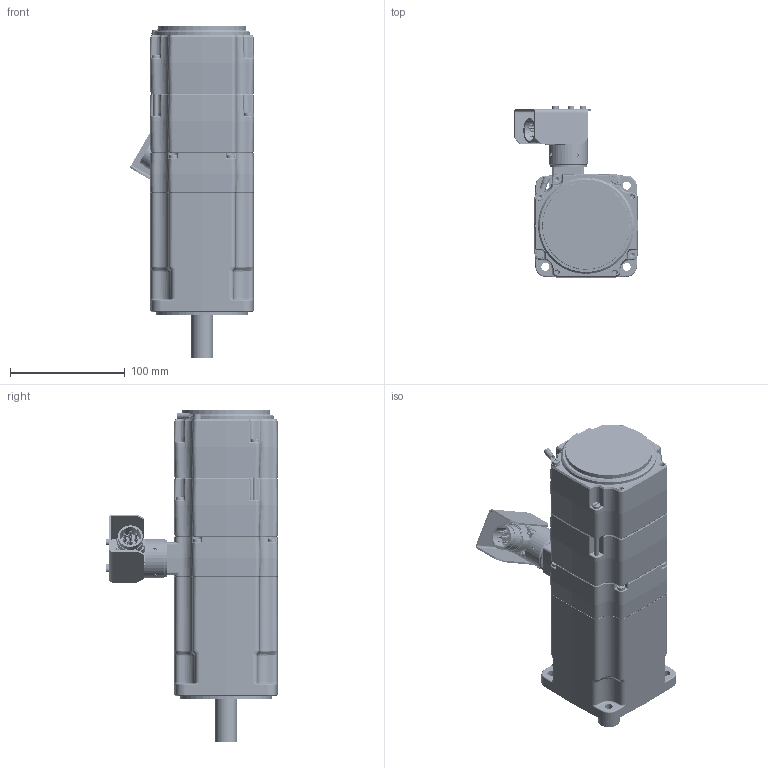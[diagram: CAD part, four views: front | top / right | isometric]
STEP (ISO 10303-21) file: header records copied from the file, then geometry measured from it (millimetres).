
FILE_DESCRIPTION((''),'2;1');
FILE_NAME('EY420EYR7310_ASM','2017-09-29T',('pf73167'),(''),'PRO/ENGINEER BY PARAMETRIC TECHNOLOGY CORPORATION, 2009400','PRO/ENGINEER BY PARAMETRIC TECHNOLOGY CORPORATION, 2009400','');
FILE_SCHEMA(('CONFIG_CONTROL_DESIGN'));
Length unit declared in the file: millimetre
Products named in the file (50): 344176P0027; 5116P1308; 1613P0123; 344174P0003; 344171P0001; 344212P0002; 344171P0001_ASM; 220087P0012; 344175R0003_ASM; 5116P1315; 1711P0005; 1645P0017; 344170P0001; 344225R2000; 344561P0001; 344570P0002_ENROULE; 344228R2000_ASM; 344172P0009; 344173R2008_ASM; 5340P0069; 5320P0033; 1143P0415; 1821P0015; 1613P0043; 1613P0044; 1317P0303; 283154_05_P1BF102_AF0; 283154_05_P1F501_AF0; 283154P0037_ASM; 1150P0305; 344180P0001; 344180P0019; 1120P0086; 1642P0104; 6620P0012; 1143P0408; 345359P0002; 5340P0124; 5340P0125; 1150P0204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
Assembly tree (111 placements, depth 4):
  EY420EYR7310_ASM
    344176P0027
    5116P1308
    1613P0123
    344175R0003_ASM
      344174P0003
      344171P0001_ASM
        344171P0001
        344212P0002  x2
      220087P0012  x20
    5116P1315
    1711P0005
    1645P0017  x2
    344173R2008_ASM
      344228R2000_ASM
        344170P0001
        344225R2000  x6
        344561P0001  x2
        344570P0002_ENROULE  x2
      344172P0009
    5340P0069  x3
    5320P0033
    1143P0415  x6
    1821P0015  x2
    1613P0043  x4
    1613P0044  x2
    1317P0303
    283154P0037_ASM
      283154_05_P1BF102_AF0
      283154_05_P1F501_AF0
    1150P0305  x4
    344180P0001
    344180P0019
    1120P0086  x2
    1642P0104
    6620P0012
    1143P0408
    345359R1010_ASM
      345359P0002
      5340P0124
      5340P0125
      1150P0204  x8
      345359P0001
      1170P0042  x4
      220132P1010_ASM
        220132P1010_0001
        220132P1010_0002
        220132P0111  x4
        220132P0120  x3
      345359P0003
      1150P0305  x3
Bounding box: 108.48 x 150.2 x 288.9 mm (x, y, z)
Volume: 1141400.6 mm3; surface area: 484135.1 mm2
Topology: 108 solids, 127 shells, 6286 faces, 15093 edges, 9182 vertices
Faces by surface type: cylinder 2168, plane 2017, bspline 920, cone 707, torus 426, sphere 28, extrusion 20
Entity records: 154352 total; most frequent: CARTESIAN_POINT 54347, ORIENTED_EDGE 20826, DIRECTION 20551, EDGE_CURVE 10413, AXIS2_PLACEMENT_3D 7758, VERTEX_POINT 6468, VECTOR 5035, LINE 5015
